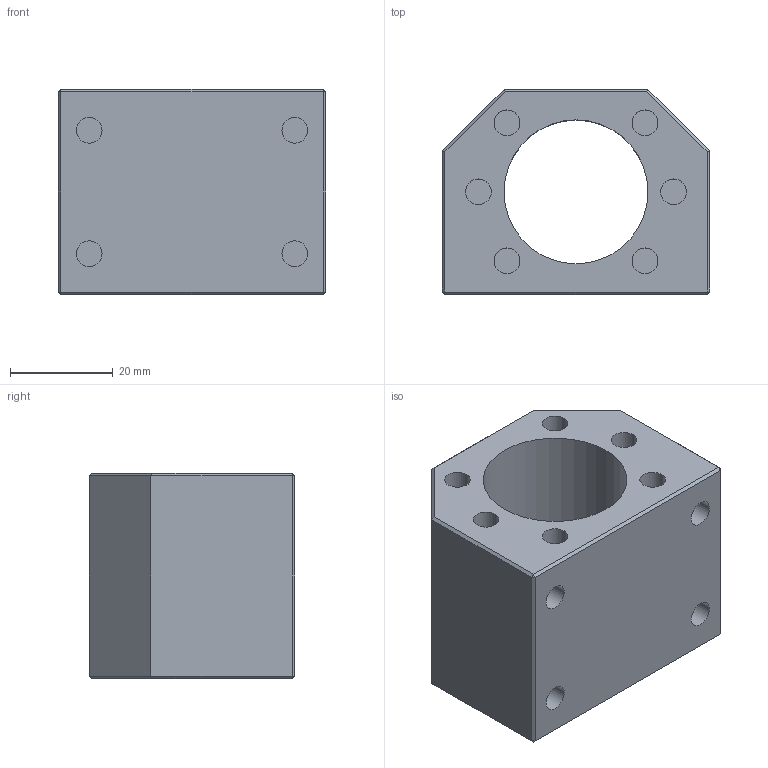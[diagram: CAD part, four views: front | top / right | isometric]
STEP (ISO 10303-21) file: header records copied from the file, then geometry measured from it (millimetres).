
FILE_DESCRIPTION (( 'STEP AP214' ), '1' );
FILE_NAME ('2.4023 Kuulamutterin kotelo DSG16H.STEP', '2024-05-06T08:09:52', ( '' ), ( '' ), 'SwSTEP 2.0', 'SolidWorks 2024', '' );
FILE_SCHEMA (( 'AUTOMOTIVE_DESIGN' ));
Length unit declared in the file: millimetre
Products named in the file (1): 2.4023 Kuulamutterin kotelo DSG16H
Bounding box: 52 x 40 x 40 mm (x, y, z)
Volume: 49795.1 mm3; surface area: 15189.6 mm2
Topology: 1 solids, 1 shells, 58 faces, 118 edges, 72 vertices
Faces by surface type: plane 36, cylinder 22
Entity records: 1665 total; most frequent: DIRECTION 280, CARTESIAN_POINT 249, ORIENTED_EDGE 236, EDGE_CURVE 118, AXIS2_PLACEMENT_3D 103, VECTOR 74, LINE 74, VERTEX_POINT 72
